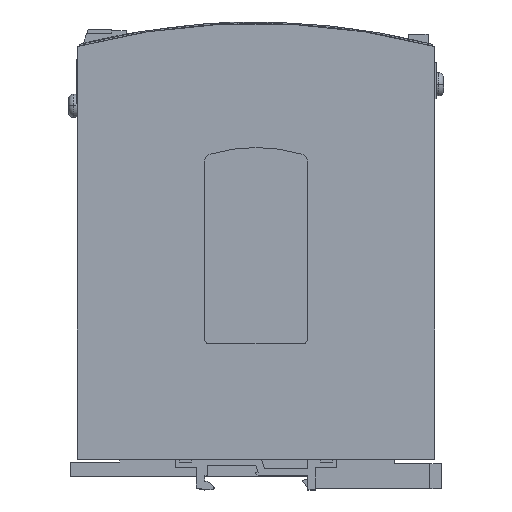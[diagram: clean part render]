
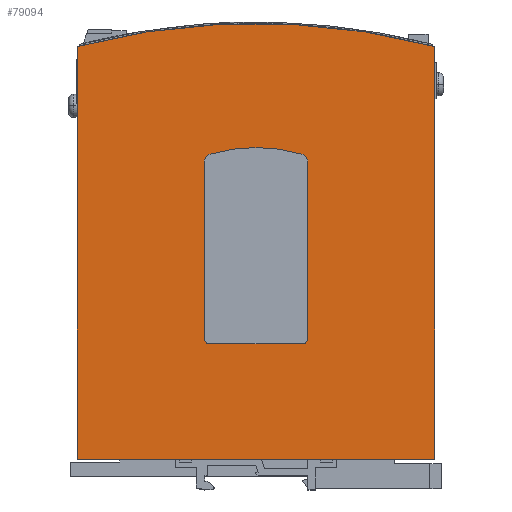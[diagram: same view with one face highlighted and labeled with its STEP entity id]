
A CAD part, top view. The second image highlights one B-rep face of the part: STEP entity #79094.
In plain terms, the highlighted planar face has unit normal (0, 0, 1).
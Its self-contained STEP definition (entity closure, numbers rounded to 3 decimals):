
#1=DIRECTION('',(0.,-1.,0.));
#2=VECTOR('',#1,143.);
#3=CARTESIAN_POINT('',(-124.,-8.,0.));
#4=LINE('',#3,#2);
#5=CARTESIAN_POINT('',(-62.,-244.25,0.));
#6=DIRECTION('',(0.,0.,1.));
#7=DIRECTION('',(0.254,0.967,0.));
#8=AXIS2_PLACEMENT_3D('',#5,#6,#7);
#10=DIRECTION('',(0.,1.,0.));
#11=VECTOR('',#10,143.);
#12=CARTESIAN_POINT('',(0.,-151.,0.));
#13=LINE('',#12,#11);
#14=DIRECTION('',(0.,-1.,0.));
#15=VECTOR('',#14,60.812);
#16=CARTESIAN_POINT('',(-80.,-48.188,0.));
#17=LINE('',#16,#15);
#18=DIRECTION('',(1.,0.,0.));
#19=VECTOR('',#18,32.);
#20=CARTESIAN_POINT('',(-78.,-111.,0.));
#21=LINE('',#20,#19);
#22=DIRECTION('',(0.,1.,0.));
#23=VECTOR('',#22,60.812);
#24=CARTESIAN_POINT('',(-44.,-109.,0.));
#25=LINE('',#24,#23);
#26=CARTESIAN_POINT('',(-62.,-98.5,0.));
#27=DIRECTION('',(0.,0.,1.));
#28=DIRECTION('',(0.286,0.958,0.));
#29=AXIS2_PLACEMENT_3D('',#26,#27,#28);
#71=DIRECTION('',(1.,0.,0.));
#72=VECTOR('',#71,124.);
#73=CARTESIAN_POINT('',(-124.,-151.,0.));
#74=LINE('',#73,#72);
#59380=CARTESIAN_POINT('',(-78.,-109.,0.));
#59381=DIRECTION('',(0.,0.,-1.));
#59382=DIRECTION('',(0.,-1.,0.));
#59383=AXIS2_PLACEMENT_3D('',#59380,#59381,#59382);
#59422=CARTESIAN_POINT('',(-46.,-109.,0.));
#59423=DIRECTION('',(0.,0.,-1.));
#59424=DIRECTION('',(1.,0.,0.));
#59425=AXIS2_PLACEMENT_3D('',#59422,#59423,#59424);
#59443=CARTESIAN_POINT('',(-47.,-48.188,0.));
#59444=DIRECTION('',(0.,0.,-1.));
#59445=DIRECTION('',(0.286,0.958,0.));
#59446=AXIS2_PLACEMENT_3D('',#59443,#59444,#59445);
#59456=CARTESIAN_POINT('',(-77.,-48.188,0.));
#59457=DIRECTION('',(0.,0.,-1.));
#59458=DIRECTION('',(-1.,0.,0.));
#59459=AXIS2_PLACEMENT_3D('',#59456,#59457,#59458);
#59461=CARTESIAN_POINT('',(0.,-8.,0.));
#59462=CARTESIAN_POINT('',(-124.,-8.,0.));
#59463=VERTEX_POINT('',#59461);
#59464=VERTEX_POINT('',#59462);
#59465=CARTESIAN_POINT('',(0.,-151.,0.));
#59466=VERTEX_POINT('',#59465);
#60503=CARTESIAN_POINT('',(-124.,-151.,0.));
#60504=VERTEX_POINT('',#60503);
#60902=CARTESIAN_POINT('',(-44.,-48.188,0.));
#60904=VERTEX_POINT('',#60902);
#60907=CARTESIAN_POINT('',(-46.143,-45.314,0.));
#60908=VERTEX_POINT('',#60907);
#60910=CARTESIAN_POINT('',(-77.857,-45.314,0.));
#60912=VERTEX_POINT('',#60910);
#60915=CARTESIAN_POINT('',(-80.,-48.188,0.));
#60916=VERTEX_POINT('',#60915);
#60918=CARTESIAN_POINT('',(-46.,-111.,0.));
#60920=VERTEX_POINT('',#60918);
#60923=CARTESIAN_POINT('',(-44.,-109.,0.));
#60924=VERTEX_POINT('',#60923);
#60926=CARTESIAN_POINT('',(-80.,-109.,0.));
#60928=VERTEX_POINT('',#60926);
#60931=CARTESIAN_POINT('',(-78.,-111.,0.));
#60932=VERTEX_POINT('',#60931);
#79061=CARTESIAN_POINT('',(0.,0.,0.));
#79062=DIRECTION('',(0.,0.,1.));
#79063=DIRECTION('',(1.,0.,0.));
#79064=AXIS2_PLACEMENT_3D('',#79061,#79062,#79063);
#79065=PLANE('',#79064);
#79067=ORIENTED_EDGE('',*,*,#79066,.F.);
#79069=ORIENTED_EDGE('',*,*,#79068,.F.);
#79071=ORIENTED_EDGE('',*,*,#79070,.F.);
#79073=ORIENTED_EDGE('',*,*,#79072,.F.);
#79074=EDGE_LOOP('',(#79067,#79069,#79071,#79073));
#79075=FACE_OUTER_BOUND('',#79074,.F.);
#79077=ORIENTED_EDGE('',*,*,#79076,.T.);
#79079=ORIENTED_EDGE('',*,*,#79078,.F.);
#79081=ORIENTED_EDGE('',*,*,#79080,.T.);
#79083=ORIENTED_EDGE('',*,*,#79082,.F.);
#79085=ORIENTED_EDGE('',*,*,#79084,.T.);
#79087=ORIENTED_EDGE('',*,*,#79086,.F.);
#79089=ORIENTED_EDGE('',*,*,#79088,.T.);
#79091=ORIENTED_EDGE('',*,*,#79090,.F.);
#79092=EDGE_LOOP('',(#79077,#79079,#79081,#79083,#79085,#79087,#79089,#79091));
#79093=FACE_BOUND('',#79092,.F.);
#79094=ADVANCED_FACE('',(#79075,#79093),#79065,.T.);
#9=CIRCLE('',#8,244.25);
#30=CIRCLE('',#29,55.5);
#59384=CIRCLE('',#59383,2.);
#59426=CIRCLE('',#59425,2.);
#59447=CIRCLE('',#59446,3.);
#59460=CIRCLE('',#59459,3.);
#79066=EDGE_CURVE('',#60504,#59466,#74,.T.);
#79068=EDGE_CURVE('',#59464,#60504,#4,.T.);
#79070=EDGE_CURVE('',#59463,#59464,#9,.T.);
#79072=EDGE_CURVE('',#59466,#59463,#13,.T.);
#79076=EDGE_CURVE('',#60916,#60928,#17,.T.);
#79078=EDGE_CURVE('',#60932,#60928,#59384,.T.);
#79080=EDGE_CURVE('',#60932,#60920,#21,.T.);
#79082=EDGE_CURVE('',#60924,#60920,#59426,.T.);
#79084=EDGE_CURVE('',#60924,#60904,#25,.T.);
#79086=EDGE_CURVE('',#60908,#60904,#59447,.T.);
#79088=EDGE_CURVE('',#60908,#60912,#30,.T.);
#79090=EDGE_CURVE('',#60916,#60912,#59460,.T.);
